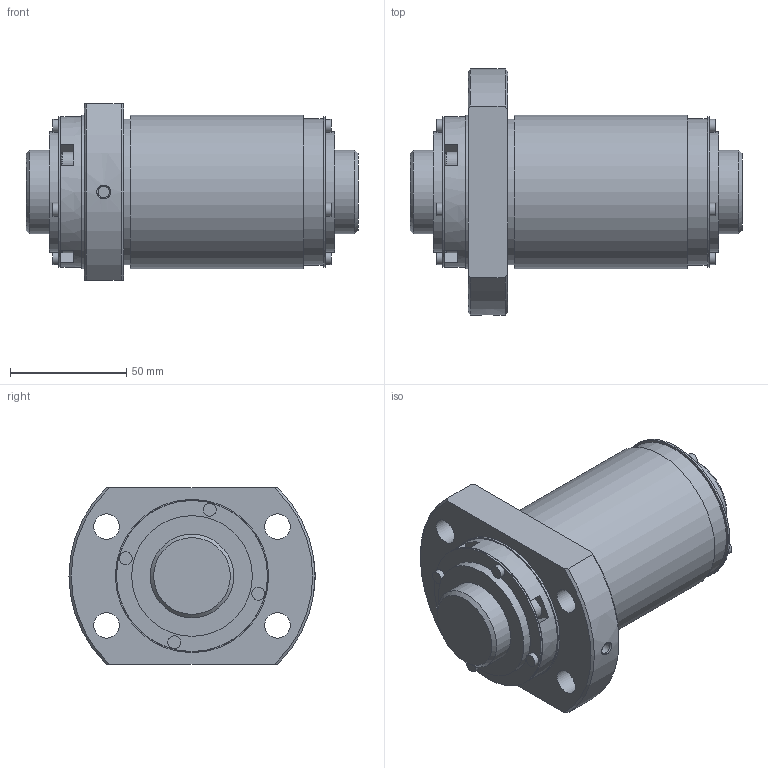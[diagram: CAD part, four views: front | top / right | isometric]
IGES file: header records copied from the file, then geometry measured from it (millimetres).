
Start section: Data from Parasolid IGES Translator 26.0.171, Copyright(c) 2006 Siemens PLM Software. All Rights Reserved.
Global section: file name: BLK3636-2.8ZZG1+143LC3_0_1300.igs; native system: By Siemens PLM Incorporated; preprocessor: XPlus GENERIC/IGES 26.0.171; author: Noname; organization: Noname; date: 20250116.070504; units: millimetre
Bounding box: 143 x 106 x 76 mm (x, y, z)
Surface area: 76998.7 mm2 (no closed solid volume)
Topology: 0 solids, 0 shells, 156 faces, 704 edges, 635 vertices
Faces by surface type: extrusion 95, revolution 61
